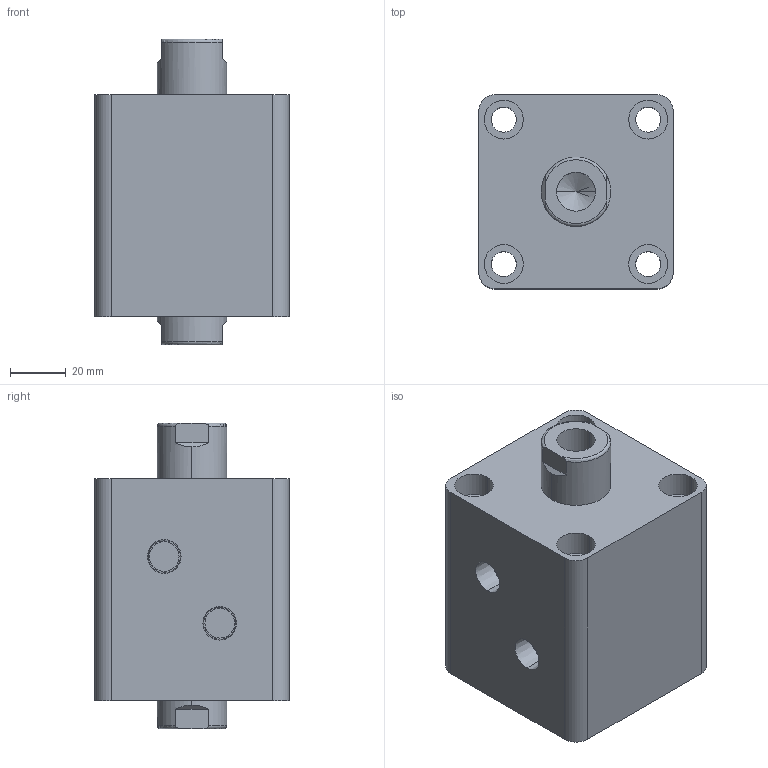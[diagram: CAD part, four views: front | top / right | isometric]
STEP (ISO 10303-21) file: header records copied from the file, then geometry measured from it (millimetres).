
FILE_DESCRIPTION (( 'STEP AP203' ), '1' );
FILE_NAME ('HTB-SW40-10N.STEP', '2019-10-07T09:05:04', ( '微软用户' ), ( '微软中国' ), 'SwSTEP 2.0', 'SolidWorks 2012', '' );
FILE_SCHEMA (( 'CONFIG_CONTROL_DESIGN' ));
Length unit declared in the file: millimetre
Products named in the file (3): HTB-SW40-10N; HTB-SW40-10N活塞杆; HTB-SW40-10掛极
Assembly tree (2 placements, depth 2):
  HTB-SW40-10N
    HTB-SW40-10掛极
    HTB-SW40-10N活塞杆
Bounding box: 70 x 70 x 110 mm (x, y, z)
Volume: 361351.5 mm3; surface area: 63145.6 mm2
Topology: 2 solids, 2 shells, 100 faces, 228 edges, 146 vertices
Faces by surface type: cylinder 48, plane 32, torus 12, cone 8
Entity records: 3237 total; most frequent: CARTESIAN_POINT 595, DIRECTION 542, ORIENTED_EDGE 448, AXIS2_PLACEMENT_3D 229, EDGE_CURVE 224, VERTEX_POINT 146, EDGE_LOOP 128, CIRCLE 124
